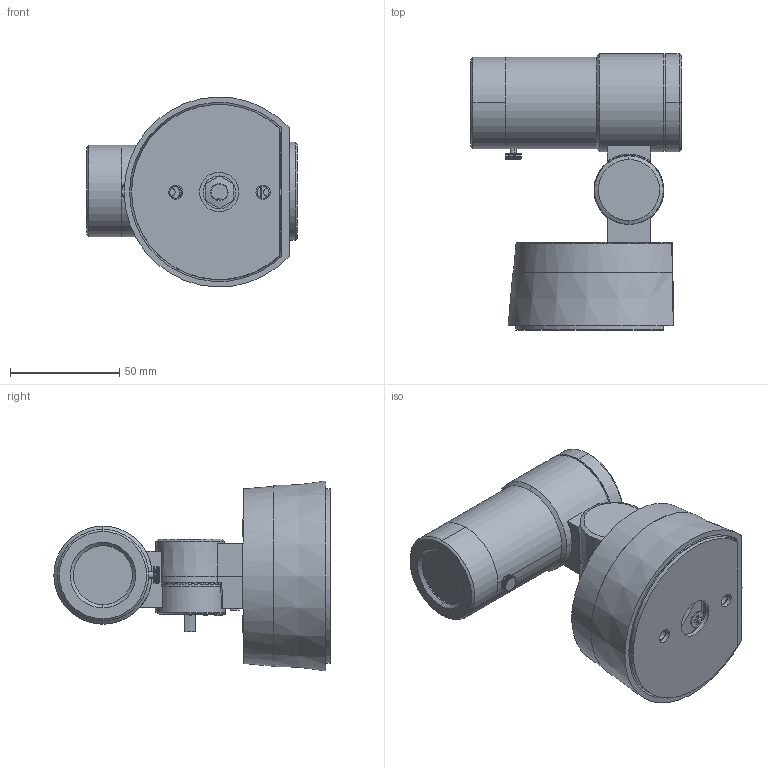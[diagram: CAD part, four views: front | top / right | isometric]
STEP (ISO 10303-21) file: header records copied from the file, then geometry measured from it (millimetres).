
FILE_DESCRIPTION((''),'2;1');
FILE_NAME('7TM_ASM','2024-09-02T',('C028'),(''),'CREO PARAMETRIC BY PTC INC, 2014190','CREO PARAMETRIC BY PTC INC, 2014190','');
FILE_SCHEMA(('CONFIG_CONTROL_DESIGN'));
Products named in the file (28): FACE-COVER-RUBBER-S_1_1_1_19_1; COVER_B_S_2_1_1_1_19_1; 3TM_DENGTI_1_1_1_19_1; PAD_1_1_1_19_1; COVER_S_ANY_1_1_1_19_1; BACK-COVER-RUBBER-S_1_1_1_19_1; PRT0019_1_1_1_19_1; MSBR-9_1_1_1_1_19_1; B96_1; LENS-COVER-S_1_1_1_19_1; 2W_ASM_ASM_ASM_1_ASM_1_ASM_1_AS_ASM; 2CF-DRIVER-BOX_1_1_1_19_1; GLASS-S_1_1_1_19_1; 3TA_____ASM_ASM_1_ASM_1_ASM_1_A_ASM; PRT0025_1_1_1_19_1; PRT0026_1_1_1_19_1; 3TM__________-57974_ASM_ASM_1_A_ASM; 0_GB_2_1_1_58_1; ADMI1FE8623B8EUW_5_1; 0_GB_COVER_2_1_1_1; PRT0033_1_1_1_1; SCREW-M12_2_1_1_1; 3TO__1; M6_18_2; M4_L15_CHENG_TOU_1_4_1; FPM_1; ASM0001_ASM_ASM_1_ASM_1_ASM_1_A_ASM; 7TM_ASM
Assembly tree (36 placements, depth 5):
  7TM_ASM
    ASM0001_ASM_ASM_1_ASM_1_ASM_1_A_ASM
      3TA_____ASM_ASM_1_ASM_1_ASM_1_A_ASM
        FACE-COVER-RUBBER-S_1_1_1_19_1
        COVER_B_S_2_1_1_1_19_1
        3TM_DENGTI_1_1_1_19_1
        PAD_1_1_1_19_1  x2
        COVER_S_ANY_1_1_1_19_1
        BACK-COVER-RUBBER-S_1_1_1_19_1
        PRT0019_1_1_1_19_1  x2
        2W_ASM_ASM_ASM_1_ASM_1_ASM_1_AS_ASM
          MSBR-9_1_1_1_1_19_1
          B96_1
          LENS-COVER-S_1_1_1_19_1
        2CF-DRIVER-BOX_1_1_1_19_1
        GLASS-S_1_1_1_19_1
      PRT0025_1_1_1_19_1
      3TM__________-57974_ASM_ASM_1_A_ASM
        PRT0026_1_1_1_19_1
      0_GB_2_1_1_58_1
      ADMI1FE8623B8EUW_5_1
      0_GB_COVER_2_1_1_1
      PRT0033_1_1_1_1  x4
      SCREW-M12_2_1_1_1
      3TO__1
      M6_18_2  x2
      M4_L15_CHENG_TOU_1_4_1  x4
      FPM_1
Bounding box: 96.49 x 126.62 x 87.05 mm (x, y, z)
Volume: 187683.4 mm3; surface area: 141732.8 mm2
Topology: 32 solids, 32 shells, 2296 faces, 6275 edges, 4114 vertices
Faces by surface type: plane 995, cylinder 670, cone 276, bspline 250, torus 84, sphere 21
Entity records: 96570 total; most frequent: CARTESIAN_POINT 46026, ORIENTED_EDGE 10940, DIRECTION 9835, EDGE_CURVE 5470, VERTEX_POINT 3576, AXIS2_PLACEMENT_3D 3517, VECTOR 2801, LINE 2801
